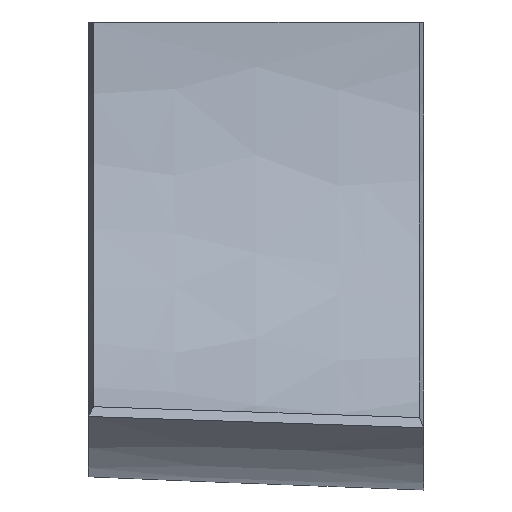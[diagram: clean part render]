
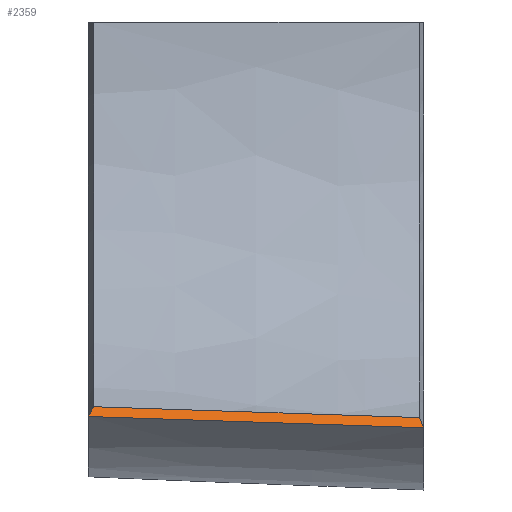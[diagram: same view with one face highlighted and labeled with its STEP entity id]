
A CAD part, left-side view. The second image highlights one B-rep face of the part: STEP entity #2359.
In plain terms, the highlighted free-form (B-spline) face has degree [1, 3] with [2, 4] control points.
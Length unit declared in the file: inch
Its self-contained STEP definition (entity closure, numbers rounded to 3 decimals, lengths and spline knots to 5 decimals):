
#114 = CARTESIAN_POINT ( 'NONE',  ( 105.54817, 43.62707, -25.1563 ) ) ;
#182 = CARTESIAN_POINT ( 'NONE',  ( 105.13827, 22.37293, -25.86627 ) ) ;
#184 = CARTESIAN_POINT ( 'NONE',  ( 104.89956, 29.38307, -26.2829 ) ) ;
#312 = EDGE_CURVE ( 'NONE', #574, #1087, #2232, .T. ) ;
#315 = EDGE_CURVE ( 'NONE', #1301, #574, #2204, .T. ) ;
#347 = CARTESIAN_POINT ( 'NONE',  ( 105.18084, 43.96641, -25.79577 ) ) ;
#534 = CARTESIAN_POINT ( 'NONE',  ( 104.75892, 22.09141, -26.52646 ) ) ;
#546 = CARTESIAN_POINT ( 'NONE',  ( 105.13827, 22.37293, -25.86627 ) ) ;
#574 = VERTEX_POINT ( 'NONE', #2283 ) ;
#700 = CARTESIAN_POINT ( 'NONE',  ( 104.75892, 22.09141, -26.52646 ) ) ;
#707 = B_SPLINE_CURVE_WITH_KNOTS ( 'NONE', 3,
 ( #2053, #184, #756, #1472 ),
 .UNSPECIFIED., .F., .F.,
 ( 4, 4 ),
 ( 0., 1. ),
 .UNSPECIFIED. ) ;
#740 = EDGE_CURVE ( 'NONE', #1087, #1098, #2094, .T. ) ;
#756 = CARTESIAN_POINT ( 'NONE',  ( 105.0402, 36.67474, -26.03933 ) ) ;
#785 = ORIENTED_EDGE ( 'NONE', *, *, #1755, .F. ) ;
#923 = CARTESIAN_POINT ( 'NONE',  ( 104.75892, 22.09141, -26.52646 ) ) ;
#1073 = CARTESIAN_POINT ( 'NONE',  ( 105.55416, 43.9375, -25.14593 ) ) ;
#1087 = VERTEX_POINT ( 'NONE', #114 ) ;
#1098 = VERTEX_POINT ( 'NONE', #1261 ) ;
#1111 = ORIENTED_EDGE ( 'NONE', *, *, #312, .T. ) ;
#1197 = CARTESIAN_POINT ( 'NONE',  ( 105.30328, 43.85329, -25.58261 ) ) ;
#1221 = CARTESIAN_POINT ( 'NONE',  ( 105.41353, 36.64583, -25.3895 ) ) ;
#1234 = CARTESIAN_POINT ( 'NONE',  ( 105.13228, 22.0625, -25.87664 ) ) ;
#1258 = CARTESIAN_POINT ( 'NONE',  ( 104.89956, 29.38307, -26.2829 ) ) ;
#1259 = CARTESIAN_POINT ( 'NONE',  ( 105.01182, 22.27909, -26.08633 ) ) ;
#1261 = CARTESIAN_POINT ( 'NONE',  ( 105.18084, 43.96641, -25.79577 ) ) ;
#1290 = CARTESIAN_POINT ( 'NONE',  ( 105.54817, 43.62707, -25.1563 ) ) ;
#1301 = VERTEX_POINT ( 'NONE', #534 ) ;
#1370 = CARTESIAN_POINT ( 'NONE',  ( 105.54817, 43.62707, -25.1563 ) ) ;
#1472 = CARTESIAN_POINT ( 'NONE',  ( 105.18084, 43.96641, -25.79577 ) ) ;
#1567 = CARTESIAN_POINT ( 'NONE',  ( 105.42573, 43.74018, -25.36946 ) ) ;
#1616 = CARTESIAN_POINT ( 'NONE',  ( 105.41154, 36.54236, -25.39296 ) ) ;
#1663 = B_SPLINE_SURFACE_WITH_KNOTS ( 'NONE', 1, 3, ( 
 ( #700, #1258, #1941, #347 ),
 ( #1234, #1956, #1221, #1073 ) ),
 .UNSPECIFIED., .F., .F., .F.,
 ( 2, 2 ),
 ( 4, 4 ),
 ( 0., 1. ),
 ( -0.27802, 0.27802 ),
 .UNSPECIFIED. ) ;
#1739 = CARTESIAN_POINT ( 'NONE',  ( 105.18084, 43.96641, -25.79577 ) ) ;
#1755 = EDGE_CURVE ( 'NONE', #1301, #1098, #707, .T. ) ;
#1784 = CARTESIAN_POINT ( 'NONE',  ( 104.88537, 22.18525, -26.3064 ) ) ;
#1816 = ORIENTED_EDGE ( 'NONE', *, *, #315, .T. ) ;
#1829 = CARTESIAN_POINT ( 'NONE',  ( 105.27491, 29.45764, -25.62961 ) ) ;
#1941 = CARTESIAN_POINT ( 'NONE',  ( 105.0402, 36.67474, -26.03933 ) ) ;
#1956 = CARTESIAN_POINT ( 'NONE',  ( 105.27291, 29.35417, -25.63307 ) ) ;
#2050 = ORIENTED_EDGE ( 'NONE', *, *, #740, .T. ) ;
#2053 = CARTESIAN_POINT ( 'NONE',  ( 104.75892, 22.09141, -26.52646 ) ) ;
#2094 = B_SPLINE_CURVE_WITH_KNOTS ( 'NONE', 3,
 ( #1370, #1567, #1197, #1739 ),
 .UNSPECIFIED., .F., .F.,
 ( 4, 4 ),
 ( 0., 1. ),
 .UNSPECIFIED. ) ;
#2158 = FACE_OUTER_BOUND ( 'NONE', #2194, .T. ) ;
#2194 = EDGE_LOOP ( 'NONE', ( #1111, #2050, #785, #1816 ) ) ;
#2204 = B_SPLINE_CURVE_WITH_KNOTS ( 'NONE', 3,
 ( #923, #1784, #1259, #546 ),
 .UNSPECIFIED., .F., .F.,
 ( 4, 4 ),
 ( 0., 1. ),
 .UNSPECIFIED. ) ;
#2232 = B_SPLINE_CURVE_WITH_KNOTS ( 'NONE', 3,
 ( #182, #1829, #1616, #1290 ),
 .UNSPECIFIED., .F., .F.,
 ( 4, 4 ),
 ( 0.01419, 0.98581 ),
 .UNSPECIFIED. ) ;
#2283 = CARTESIAN_POINT ( 'NONE',  ( 105.13827, 22.37293, -25.86627 ) ) ;
#2359 = ADVANCED_FACE ( 'NONE', ( #2158 ), #1663, .T. ) ;
